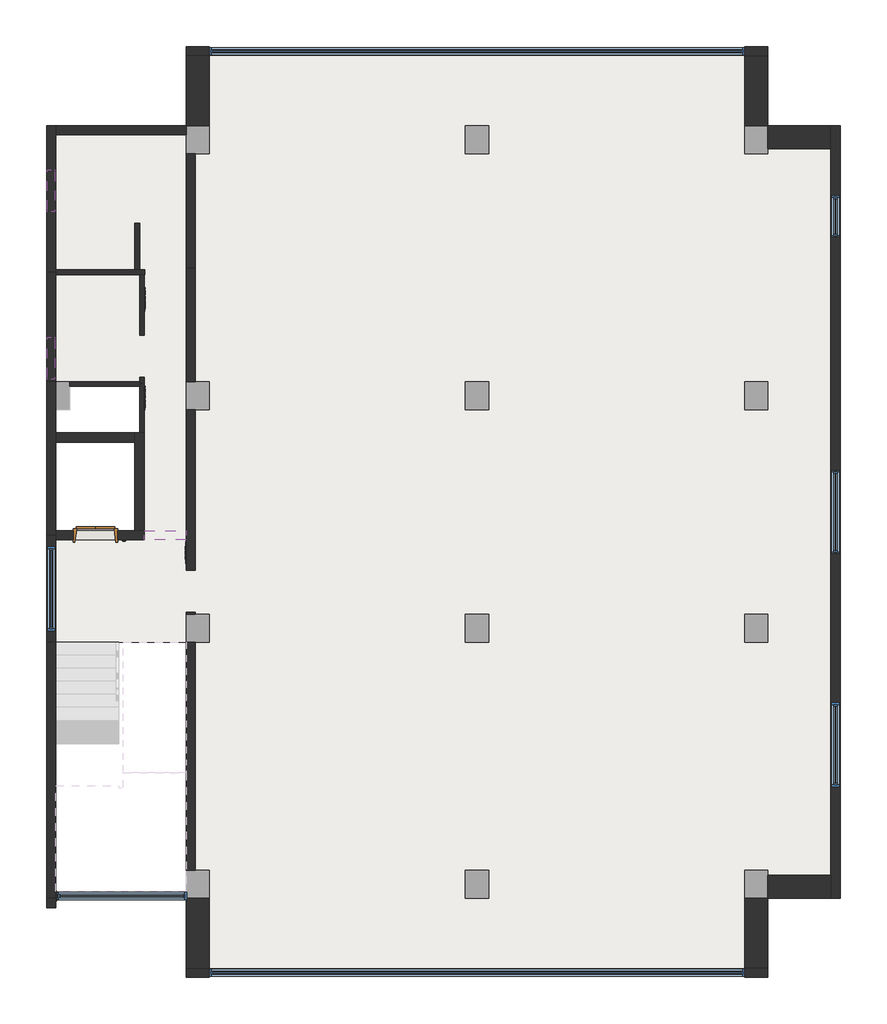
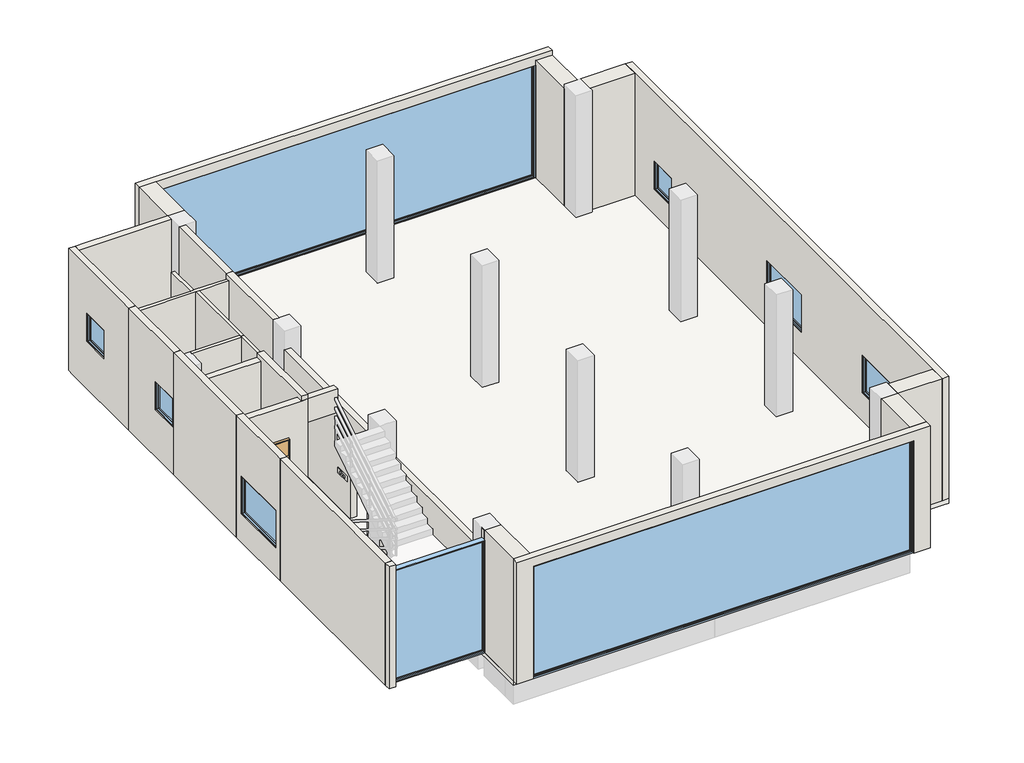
# One storey, part 1 of 3: 33 walls, 9 windows, 1 door, 1 slab.
"""IFC4 building model written with IfcOpenShell, lengths in millimetres."""

from ifc_helpers import new_model, si_unit, frame, origin, place, context, project, spatial, polyline, outline, extrude, faceted_brep, transform, mapped, element, save
from components import door_097e9757, window_16c43cb3, window_f2f41d25, window_07c90ac9, window_8a8d6591, window_3f7671e2

model = new_model("IFC4")

# Units and contexts
model_context = context("Model", 3, world=origin())
ifc_project = project(units=[si_unit("LENGTHUNIT", "METRE", prefix="MILLI")], contexts=[model_context])

# Site, building, storey
site = spatial("IfcSite", under=ifc_project)
building = spatial("IfcBuilding", under=site)
storey = spatial("IfcBuildingStorey", under=building, Name="5층", Elevation=14700.0)

# Door
placement = place(None, origin())
door_shape = door_097e9757(model_context)
element("IfcDoor", 1, ObjectType="XX111-승객용 엘리베이터 (다용도, 800KG) 상판 출입구800 : 엘리베이터 800", at=placement, inside=storey, context=model_context, shape_type="MappedRepresentation", body=[
    mapped(door_shape, transform((925.0, 7500.0, 14800.0), x_axis=(-1.0, 0.0, 0.0), y_axis=(0.0, -1.0, 0.0), z_axis=(0.0, 0.0, 1.0))),
])

# Slab
element("IfcSlab", 2, ObjectType="SL100-구조 바닥 150", at=placement, inside=storey, context=model_context, shape_type="Brep", body=[
    faceted_brep([(-50.0, 5200.0, 14550.0), (-50.0, 7400.0, 14550.0), (1850.0, 7400.0, 14550.0), (1850.0, 7600.0, 14550.0), (1850.0, 9700.0, 14550.0), (1750.0, 9700.0, 14550.0), (1750.0, 10700.0, 14550.0), (250.0, 10700.0, 14550.0), (-50.0, 10700.0, 14550.0), (-50.0, 10800.0, 14550.0), (-50.0, 15700.0, 14550.0), (-50.0, 16100.0, 14550.0), (250.0, 16100.0, 14550.0), (2750.0, 16100.0, 14550.0), (2750.0, 15700.0, 14550.0), (3150.0, 15700.0, 14550.0), (3250.0, 15700.0, 14550.0), (3250.0, 15900.0, 14550.0), (3250.0, 16300.0, 14550.0), (3250.0, 17800.0, 14550.0), (8850.0, 17800.0, 14550.0), (14750.0, 17800.0, 14550.0), (15250.0, 17800.0, 14550.0), (15250.0, 16300.0, 14550.0), (14750.0, 16300.0, 14550.0), (14750.0, 15900.0, 14550.0), (14750.0, 15700.0, 14550.0), (14850.0, 15700.0, 14550.0), (15250.0, 15700.0, 14550.0), (16600.0, 16300.0, 14550.0), (16800.0, 16300.0, 14550.0), (16800.0, -300.0, 14550.0), (16600.0, -300.0, 14550.0), (15250.0, -300.0, 14550.0), (15250.0, 300.0, 14550.0), (14850.0, 300.0, 14550.0), (14750.0, 300.0, 14550.0), (14750.0, 100.0, 14550.0), (14750.0, -300.0, 14550.0), (14750.0, -1400.0, 14550.0), (14750.0, -1800.0, 14550.0), (8850.0, -1800.0, 14550.0), (2750.0, -1800.0, 14550.0), (2750.0, -1400.0, 14550.0), (2750.0, -300.0, 14550.0), (2750.0, 25.0, 14550.0), (2750.0, 5200.0, 14550.0), (3150.0, 5200.0, 14550.0), (3250.0, 5200.0, 14550.0), (3250.0, 5300.0, 14550.0), (3250.0, 5700.0, 14550.0), (3250.0, 5800.0, 14550.0), (3150.0, 5800.0, 14550.0), (2750.0, 5800.0, 14550.0), (2750.0, 10800.0, 14550.0), (2750.0, 10200.0, 14550.0), (3150.0, 10200.0, 14550.0), (3250.0, 10200.0, 14550.0), (3250.0, 10300.0, 14550.0), (3250.0, 10700.0, 14550.0), (3250.0, 10800.0, 14550.0), (3150.0, 10800.0, 14550.0), (8750.0, 10800.0, 14550.0), (8750.0, 10700.0, 14550.0), (8750.0, 10300.0, 14550.0), (8750.0, 10200.0, 14550.0), (8850.0, 10200.0, 14550.0), (9250.0, 10200.0, 14550.0), (9250.0, 10300.0, 14550.0), (9250.0, 10700.0, 14550.0), (9250.0, 10800.0, 14550.0), (8850.0, 10800.0, 14550.0), (14750.0, 10800.0, 14550.0), (14750.0, 10700.0, 14550.0), (14750.0, 10300.0, 14550.0), (14750.0, 10200.0, 14550.0), (14850.0, 10200.0, 14550.0), (15250.0, 10200.0, 14550.0), (15250.0, 10300.0, 14550.0), (15250.0, 10700.0, 14550.0), (15250.0, 10800.0, 14550.0), (14850.0, 10800.0, 14550.0), (14750.0, 5800.0, 14550.0), (14750.0, 5700.0, 14550.0), (14750.0, 5300.0, 14550.0), (14750.0, 5200.0, 14550.0), (14850.0, 5200.0, 14550.0), (15250.0, 5200.0, 14550.0), (15250.0, 5300.0, 14550.0), (15250.0, 5700.0, 14550.0), (15250.0, 5800.0, 14550.0), (14850.0, 5800.0, 14550.0), (-50.0, 7400.0, 14700.0), (-50.0, 5200.0, 14700.0), (2750.0, 5200.0, 14700.0), (2750.0, 5800.0, 14700.0), (3250.0, 5800.0, 14700.0), (3250.0, 5200.0, 14700.0), (2750.0, 300.0, 14700.0), (2750.0, -300.0, 14700.0), (2750.0, -1800.0, 14700.0), (14750.0, -1800.0, 14700.0), (14750.0, -300.0, 14700.0), (14750.0, 300.0, 14700.0), (15250.0, 300.0, 14700.0), (15250.0, -300.0, 14700.0), (16800.0, -300.0, 14700.0), (16800.0, 16300.0, 14700.0), (15250.0, 16300.0, 14700.0), (15250.0, 15700.0, 14700.0), (14750.0, 15700.0, 14700.0), (14750.0, 16300.0, 14700.0), (15250.0, 17800.0, 14700.0), (3250.0, 17800.0, 14700.0), (3250.0, 16300.0, 14700.0), (3250.0, 15700.0, 14700.0), (2750.0, 15700.0, 14700.0), (2750.0, 16100.0, 14700.0), (250.0, 16100.0, 14700.0), (-50.0, 16100.0, 14700.0), (-50.0, 10800.0, 14700.0), (-50.0, 10700.0, 14700.0), (250.0, 10700.0, 14700.0), (1750.0, 10700.0, 14700.0), (1750.0, 9700.0, 14700.0), (1850.0, 9700.0, 14700.0), (1850.0, 7600.0, 14700.0), (1850.0, 7400.0, 14700.0), (14750.0, 10200.0, 14700.0), (14750.0, 10800.0, 14700.0), (15250.0, 10800.0, 14700.0), (15250.0, 10200.0, 14700.0), (14750.0, 5200.0, 14700.0), (14750.0, 5800.0, 14700.0), (15250.0, 5800.0, 14700.0), (15250.0, 5200.0, 14700.0), (8750.0, 10200.0, 14700.0), (8750.0, 10800.0, 14700.0), (9250.0, 10800.0, 14700.0), (9250.0, 10200.0, 14700.0), (2750.0, 10200.0, 14700.0), (2750.0, 10800.0, 14700.0), (3250.0, 10800.0, 14700.0), (3250.0, 10200.0, 14700.0)], [[[0, 1, 2, 3, 4, 5, 6, 7, 8, 9, 10, 11, 12, 13, 14, 15, 16, 17, 18, 19, 20, 21, 22, 23, 24, 25, 26, 27, 28, 23, 29, 30, 31, 32, 33, 34, 35, 36, 37, 38, 39, 40, 41, 42, 43, 44, 45, 46, 47, 48, 49, 50, 51, 52, 53, 46], [54, 55, 56, 57, 58, 59, 60, 61], [62, 63, 64, 65, 66, 67, 68, 69, 70, 71], [72, 73, 74, 75, 76, 77, 78, 79, 80, 81], [82, 83, 84, 85, 86, 87, 88, 89, 90, 91]], [[92, 93, 94, 95, 96, 97, 94, 98, 99, 100, 101, 102, 103, 104, 105, 106, 107, 108, 109, 110, 111, 108, 112, 113, 114, 115, 116, 117, 118, 119, 120, 121, 122, 123, 124, 125, 126, 127], [128, 129, 130, 131], [132, 133, 134, 135], [136, 137, 138, 139], [140, 141, 142, 143]], [[1, 0, 93, 92]], [[13, 12, 11, 119, 118, 117]], [[46, 45, 44, 43, 42, 100, 99, 98, 94]], [[0, 46, 94, 93]], [[112, 22, 21, 20, 19, 113]], [[31, 30, 107, 106]], [[100, 42, 41, 40, 101]], [[33, 32, 31, 106, 105]], [[23, 22, 112, 108]], [[30, 29, 23, 108, 107]], [[2, 1, 92, 127]], [[4, 3, 2, 127, 126, 125]], [[8, 7, 6, 123, 122, 121]], [[11, 10, 9, 8, 121, 120, 119]], [[72, 129, 128, 75, 74, 73]], [[129, 72, 81, 80, 130]], [[130, 80, 79, 78, 77, 131]], [[131, 77, 76, 75, 128]], [[110, 26, 25, 24, 111]], [[111, 24, 23, 108]], [[108, 23, 28, 109]], [[26, 110, 109, 28, 27]], [[82, 133, 132, 85, 84, 83]], [[133, 82, 91, 90, 134]], [[134, 90, 89, 88, 87, 135]], [[135, 87, 86, 85, 132]], [[34, 104, 103, 36, 35]], [[136, 65, 64, 63, 62, 137]], [[137, 62, 71, 70, 138]], [[138, 70, 69, 68, 67, 139]], [[65, 136, 139, 67, 66]], [[116, 14, 13, 117]], [[16, 115, 114, 113, 19, 18, 17]], [[14, 116, 115, 16, 15]], [[54, 141, 140, 55]], [[60, 142, 141, 54, 61]], [[57, 143, 142, 60, 59, 58]], [[143, 57, 56, 55, 140]], [[53, 95, 94, 46]], [[51, 96, 95, 53, 52]], [[48, 97, 96, 51, 50, 49]], [[97, 48, 47, 46, 94]], [[5, 4, 125, 124]], [[6, 5, 124, 123]], [[36, 103, 102, 101, 40, 39, 38, 37]], [[104, 34, 33, 105]]]),
])

# Walls
element("IfcWall", 3, ObjectType="WA100-구조 벽 500", at=placement, inside=storey, context=model_context, shape_type="Brep", body=[
    faceted_brep([(2749.5, -1800.0, 14700.0), (2749.5, -1800.0, 18600.0), (2749.5, -150.0, 18600.0), (2749.5, -150.0, 18450.0), (2749.5, -150.0, 18300.0), (2749.5, -350.0, 18300.0), (2749.5, -350.0, 14700.0), (3249.5, -1800.0, 18600.0), (3249.5, -1800.0, 18450.0), (3249.5, -1800.0, 14700.0), (3249.5, -300.0, 14700.0), (3249.5, -300.0, 18450.0), (3249.5, -300.0, 18600.0), (2764.041029, -350.0, 14700.0), (2764.041029, -300.0, 14700.0), (2750.0, -300.0, 18600.0), (2750.0, -150.0, 18600.0), (2750.0, -300.0, 18300.0), (2750.0, -150.0, 18300.0), (2750.0, -150.0, 18450.0), (2764.041029, -300.0, 18300.0), (2764.041029, -350.0, 18300.0)], [[[0, 1, 2, 3, 4, 5, 6]], [[7, 8, 9, 10, 11, 12]], [[9, 0, 6, 13, 14, 10]], [[1, 0, 9, 8, 7]], [[2, 1, 7, 12, 15, 16]], [[15, 17, 18, 19, 16]], [[17, 15, 12, 11, 10, 14, 20]], [[4, 3, 2, 16, 19, 18]], [[21, 13, 6, 5]], [[13, 21, 20, 14]], [[21, 5, 4, 18, 17, 20]]]),
])
element("IfcWall", 4, ObjectType="WA100-구조 벽 500", at=placement, inside=storey, context=model_context, shape_type="Brep", body=[
    faceted_brep([(14750.0, -1800.0, 14700.0), (14750.0, -1800.0, 18450.0), (14750.0, -1800.0, 18600.0), (14750.0, -300.0, 18600.0), (14750.0, -300.0, 14700.0), (15250.0, -1800.0, 18600.0), (15250.0, -1800.0, 14700.0), (15250.0, -300.0, 14700.0), (15250.0, -300.0, 18600.0)], [[[0, 1, 2, 3, 4]], [[5, 6, 7, 8]], [[6, 0, 4, 7]], [[2, 1, 0, 6, 5]], [[2, 5, 8, 3]], [[4, 3, 8, 7]]]),
])
element("IfcWall", 5, ObjectType="WA100-구조 벽 200", at=placement, inside=storey, context=model_context, shape_type="Brep", body=[
    faceted_brep([(16800.0, -300.0, 14700.0), (16800.0, 16300.0, 14700.0), (16800.0, 16300.0, 18600.0), (16800.0, -300.0, 18600.0), (16800.0, 8900.0, 16800.0), (16800.0, 8900.0, 15600.0), (16800.0, 7100.0, 15600.0), (16800.0, 7100.0, 16800.0), (16800.0, 14800.0, 16400.0), (16800.0, 14800.0, 15500.0), (16800.0, 13900.0, 15500.0), (16800.0, 13900.0, 16400.0), (16800.0, 3900.0, 16800.0), (16800.0, 3900.0, 15600.0), (16800.0, 2100.0, 15600.0), (16800.0, 2100.0, 16800.0), (16600.0, -300.0, 14700.0), (16600.0, -300.0, 18600.0), (16600.0, 200.0, 18600.0), (16600.0, 15800.0, 18600.0), (16600.0, 16300.0, 18600.0), (16600.0, 16300.0, 14700.0), (16600.0, 15800.0, 14700.0), (16600.0, 200.0, 14700.0), (16600.0, 8900.0, 16800.0), (16600.0, 7100.0, 16800.0), (16600.0, 7100.0, 15600.0), (16600.0, 8900.0, 15600.0), (16600.0, 14800.0, 16400.0), (16600.0, 13900.0, 16400.0), (16600.0, 13900.0, 15500.0), (16600.0, 14800.0, 15500.0), (16600.0, 3900.0, 16800.0), (16600.0, 2100.0, 16800.0), (16600.0, 2100.0, 15600.0), (16600.0, 3900.0, 15600.0)], [[[0, 1, 2, 3], [4, 5, 6, 7], [8, 9, 10, 11], [12, 13, 14, 15]], [[16, 17, 18, 19, 20, 21, 22, 23], [24, 25, 26, 27], [28, 29, 30, 31], [32, 33, 34, 35]], [[1, 0, 16, 23, 22, 21]], [[3, 2, 20, 19, 18, 17]], [[0, 3, 17, 16]], [[2, 1, 21, 20]], [[5, 4, 24, 27]], [[6, 5, 27, 26]], [[7, 6, 26, 25]], [[4, 7, 25, 24]], [[9, 8, 28, 31]], [[10, 9, 31, 30]], [[11, 10, 30, 29]], [[8, 11, 29, 28]], [[13, 12, 32, 35]], [[14, 13, 35, 34]], [[15, 14, 34, 33]], [[12, 15, 33, 32]]]),
])
element("IfcWall", 6, ObjectType="WA100-구조 벽 500", at=placement, inside=storey, context=model_context, shape_type="SweptSolid", body=[
    extrude(outline(polyline([(16600.0, -300.0), (15250.0, -300.0), (15250.0, 200.0), (16600.0, 200.0), (16600.0, -300.0)])), frame((0.0, 0.0, 14700.0), z_axis=(0.0, 0.0, 1.0), x_axis=(1.0, 0.0, 0.0)), (0.0, 0.0, 1.0), 3900.0),
])
element("IfcWall", 7, ObjectType="WA100-구조 벽 500", at=placement, inside=storey, context=model_context, shape_type="SweptSolid", body=[
    extrude(outline(polyline([(2750.0, 17800.0), (3250.0, 17800.0), (3250.0, 16300.0), (2750.0, 16300.0), (2750.0, 17800.0)])), frame((0.0, 0.0, 14700.0), z_axis=(0.0, 0.0, 1.0), x_axis=(1.0, 0.0, 0.0)), (0.0, 0.0, 1.0), 3900.0),
])
element("IfcWall", 8, ObjectType="WA100-구조 벽 500", at=placement, inside=storey, context=model_context, shape_type="SweptSolid", body=[
    extrude(outline(polyline([(14750.0, 17800.0), (15250.0, 17800.0), (15250.0, 16300.0), (14750.0, 16300.0), (14750.0, 17800.0)])), frame((0.0, 0.0, 14700.0), z_axis=(0.0, 0.0, 1.0), x_axis=(1.0, 0.0, 0.0)), (0.0, 0.0, 1.0), 3750.0),
])
element("IfcWall", 9, ObjectType="WA100-구조 벽 500", at=placement, inside=storey, context=model_context, shape_type="SweptSolid", body=[
    extrude(outline(polyline([(16600.0, 15800.0), (15250.0, 15800.0), (15250.0, 16300.0), (16600.0, 16300.0), (16600.0, 15800.0)])), frame((0.0, 0.0, 14700.0), z_axis=(0.0, 0.0, 1.0), x_axis=(1.0, 0.0, 0.0)), (0.0, 0.0, 1.0), 3900.0),
])
element("IfcWall", 10, ObjectType="WA100-구조 벽 200", at=placement, inside=storey, context=model_context, shape_type="SweptSolid", body=[
    extrude(outline(polyline([(-50.0, 5200.0), (-50.0, -300.0), (-250.0, -300.0), (-250.0, 5200.0), (-50.0, 5200.0)])), frame((0.0, 0.0, 14700.0), z_axis=(0.0, 0.0, 1.0), x_axis=(1.0, 0.0, 0.0)), (0.0, 0.0, 1.0), 3900.0),
])
element("IfcWall", 11, ObjectType="WA100-구조 벽 200", at=placement, inside=storey, context=model_context, shape_type="Brep", body=[
    faceted_brep([(-50.0, 7400.0, 14700.0), (1850.0, 7400.0, 14700.0), (1850.0, 7400.0, 17700.0), (1850.0, 7400.0, 18450.0), (1650.0, 7400.0, 18450.0), (-50.0, 7400.0, 18450.0), (1275.0, 7400.0, 17400.0), (1275.0, 7400.0, 14800.0), (325.0, 7400.0, 14800.0), (325.0, 7400.0, 17400.0), (1850.0, 7600.0, 14700.0), (1650.0, 7600.0, 14700.0), (-50.0, 7600.0, 14700.0), (-50.0, 7600.0, 18450.0), (1650.0, 7600.0, 18450.0), (1850.0, 7600.0, 18450.0), (1850.0, 7600.0, 17700.0), (1275.0, 7600.0, 14800.0), (1275.0, 7600.0, 17400.0), (325.0, 7600.0, 17400.0), (325.0, 7600.0, 14800.0), (-50.0, 7500.0, 14700.0)], [[[0, 1, 2, 3, 4, 5], [6, 7, 8, 9]], [[10, 11, 12, 13, 14, 15, 16], [17, 18, 19, 20]], [[1, 0, 21, 12, 11, 10]], [[5, 4, 3, 15, 14, 13]], [[6, 18, 17, 7]], [[7, 17, 20, 8]], [[8, 20, 19, 9]], [[18, 6, 9, 19]], [[1, 10, 16, 15, 3, 2]], [[0, 5, 13, 12, 21]]]),
])
element("IfcWall", 12, ObjectType="WA700-수장 벽 100", at=placement, inside=storey, context=model_context, shape_type="Brep", body=[
    faceted_brep([(250.0, 10700.0, 14700.0), (1750.0, 10700.0, 14700.0), (1750.0, 10700.0, 18450.0), (250.0, 10700.0, 18450.0), (250.0, 10800.0, 14700.0), (250.0, 10800.0, 18450.0), (1750.0, 10800.0, 18450.0), (1750.0, 10800.0, 14700.0), (1750.0, 10750.0, 14700.0), (1750.0, 10750.0, 18450.0)], [[[0, 1, 2, 3]], [[4, 5, 6, 7]], [[1, 0, 4, 7, 8]], [[0, 3, 5, 4]], [[3, 2, 9, 6, 5]], [[2, 1, 8, 7, 6, 9]]]),
])
element("IfcWall", 13, ObjectType="WA100-구조 벽 200", at=placement, inside=storey, context=model_context, shape_type="Brep", body=[
    faceted_brep([(1850.0, 7600.0, 18450.0), (1850.0, 7600.0, 14700.0), (1850.0, 9700.0, 14700.0), (1850.0, 9700.0, 18600.0), (1850.0, 7400.0, 18600.0), (1850.0, 7400.0, 18450.0), (1650.0, 7600.0, 14700.0), (1650.0, 7600.0, 18450.0), (1650.0, 7400.0, 18450.0), (1650.0, 7400.0, 18600.0), (1650.0, 9500.0, 18600.0), (1650.0, 9700.0, 18600.0), (1650.0, 9700.0, 14700.0), (1650.0, 9500.0, 14700.0)], [[[0, 1, 2, 3, 4, 5]], [[6, 7, 8, 9, 10, 11, 12, 13]], [[2, 1, 6, 13, 12]], [[4, 3, 11, 10, 9]], [[2, 12, 11, 3]], [[5, 8, 7, 0]], [[0, 7, 6, 1]], [[5, 4, 9, 8]]]),
])
element("IfcWall", 14, ObjectType="WA100-구조 벽 200", at=placement, inside=storey, context=model_context, shape_type="SweptSolid", body=[
    extrude(outline(polyline([(1650.0, 9500.0), (-50.0, 9500.0), (-50.0, 9700.0), (1650.0, 9700.0), (1650.0, 9500.0)])), frame((0.0, 0.0, 14700.0), z_axis=(0.0, 0.0, 1.0), x_axis=(1.0, 0.0, 0.0)), (0.0, 0.0, 1.0), 3750.0),
])
element("IfcWall", 15, ObjectType="WA700-수장 벽 100", at=placement, inside=storey, context=model_context, shape_type="Brep", body=[
    faceted_brep([(1750.0, 10750.0, 14700.0), (1750.0, 10750.0, 18450.0), (1750.0, 10800.0, 18450.0), (1750.0, 13100.0, 18450.0), (1750.0, 13100.0, 14700.0), (1750.0, 11795.0, 14700.0), (1750.0, 11795.0, 16500.0), (1750.0, 10895.0, 16500.0), (1750.0, 10895.0, 14700.0), (1750.0, 10800.0, 14700.0), (1850.0, 10750.0, 18450.0), (1850.0, 10750.0, 14700.0), (1850.0, 10895.0, 14700.0), (1850.0, 10895.0, 16500.0), (1850.0, 11795.0, 16500.0), (1850.0, 11795.0, 14700.0), (1850.0, 13100.0, 14700.0), (1850.0, 13100.0, 18450.0)], [[[0, 1, 2, 3, 4, 5, 6, 7, 8, 9]], [[10, 11, 12, 13, 14, 15, 16, 17]], [[11, 0, 9, 8, 12]], [[4, 16, 15, 5]], [[1, 0, 11, 10]], [[4, 3, 17, 16]], [[3, 2, 1, 10, 17]], [[7, 13, 12, 8]], [[13, 7, 6, 14]], [[14, 6, 5, 15]]]),
])
element("IfcWall", 16, ObjectType="WA700-수장 벽 100", at=placement, inside=storey, context=model_context, shape_type="Brep", body=[
    faceted_brep([(2750.0, 13100.0, 18450.0), (1850.0, 13100.0, 18450.0), (1750.0, 13100.0, 18450.0), (-50.0, 13100.0, 18450.0), (-50.0, 13100.0, 14700.0), (1750.0, 13100.0, 14700.0), (1850.0, 13100.0, 14700.0), (1855.0, 13100.0, 14700.0), (1855.0, 13100.0, 16500.0), (2750.0, 13100.0, 16500.0), (-50.0, 13200.0, 18450.0), (1650.0, 13200.0, 18450.0), (1750.0, 13200.0, 18450.0), (2750.0, 13200.0, 18450.0), (2750.0, 13200.0, 16500.0), (1855.0, 13200.0, 16500.0), (1855.0, 13200.0, 14700.0), (1750.0, 13200.0, 14700.0), (1650.0, 13200.0, 14700.0), (-50.0, 13200.0, 14700.0)], [[[0, 1, 2, 3, 4, 5, 6, 7, 8, 9]], [[10, 11, 12, 13, 14, 15, 16, 17, 18, 19]], [[4, 19, 18, 17, 16, 7, 6, 5]], [[13, 0, 9, 14]], [[3, 2, 1, 0, 13, 12, 11, 10]], [[8, 15, 14, 9]], [[15, 8, 7, 16]], [[4, 3, 10, 19]]]),
])
element("IfcWall", 17, ObjectType="WA700-수장 벽 100", at=placement, inside=storey, context=model_context, shape_type="SweptSolid", body=[
    extrude(outline(polyline([(1750.0, 14200.0), (1750.0, 13200.0), (1650.0, 13200.0), (1650.0, 14200.0), (1750.0, 14200.0)])), frame((0.0, 0.0, 14700.0), z_axis=(0.0, 0.0, 1.0), x_axis=(1.0, 0.0, 0.0)), (0.0, 0.0, 1.0), 3750.0),
])
element("IfcWall", 18, ObjectType="WA100-구조 벽 200", at=placement, inside=storey, context=model_context, shape_type="SweptSolid", body=[
    extrude(outline(polyline([(10200.0, 18000.0), (10200.0, 14700.0), (6745.0, 14700.0), (6745.0, 16500.0), (5845.0, 16500.0), (5845.0, 14700.0), (5800.0, 14700.0), (5800.0, 18000.0), (10200.0, 18000.0)])), frame((2750.0, 0.0, 0.0), z_axis=(1.0, 0.0, 0.0), x_axis=(0.0, 1.0, 0.0)), (0.0, 0.0, 1.0), 200.0),
])
element("IfcWall", 19, ObjectType="WA100-구조 벽 200", at=placement, inside=storey, context=model_context, shape_type="SweptSolid", body=[
    extrude(outline(polyline([(2950.0, 5200.0), (2950.0, 300.0), (2750.0, 300.0), (2750.0, 5200.0), (2950.0, 5200.0)])), frame((0.0, 0.0, 14700.0), z_axis=(0.0, 0.0, 1.0), x_axis=(1.0, 0.0, 0.0)), (0.0, 0.0, 1.0), 3150.0),
])
element("IfcWall", 20, ObjectType="WA100-구조 벽 200", at=placement, inside=storey, context=model_context, shape_type="SweptSolid", body=[
    extrude(outline(polyline([(2750.0, 13240.0), (2750.0, 15700.0), (2950.0, 15700.0), (2950.0, 13240.0), (2750.0, 13240.0)])), frame((0.0, 0.0, 14700.0), z_axis=(0.0, 0.0, 1.0), x_axis=(1.0, 0.0, 0.0)), (0.0, 0.0, 1.0), 3900.0),
])
element("IfcWall", 21, ObjectType="WA100-구조 벽 200", at=placement, inside=storey, context=model_context, shape_type="Brep", body=[
    faceted_brep([(-50.0, 16100.0, 14700.0), (250.0, 16100.0, 14700.0), (2750.0, 16100.0, 14700.0), (2750.0, 16100.0, 18450.0), (2750.0, 16100.0, 18600.0), (-50.0, 16100.0, 18600.0), (-50.0, 16100.0, 18450.0), (2750.0, 16300.0, 14700.0), (250.0, 16300.0, 14700.0), (-50.0, 16300.0, 14700.0), (-50.0, 16300.0, 18600.0), (250.0, 16300.0, 18600.0), (2750.0, 16300.0, 18600.0), (2750.0, 16300.0, 18450.0)], [[[0, 1, 2, 3, 4, 5, 6]], [[7, 8, 9, 10, 11, 12, 13]], [[2, 1, 0, 9, 8, 7]], [[5, 4, 12, 11, 10]], [[2, 7, 13, 12, 4, 3]], [[5, 10, 9, 0, 6]]]),
])
element("IfcWall", 22, ObjectType="WA100-구조 벽 200", at=placement, inside=storey, context=model_context, shape_type="SweptSolid", body=[
    extrude(outline(polyline([(1850.0, 7600.0), (2750.0, 7600.0), (2750.0, 7400.0), (1850.0, 7400.0), (1850.0, 7600.0)])), frame((0.0, 0.0, 17700.0), z_axis=(0.0, 0.0, 1.0), x_axis=(1.0, 0.0, 0.0)), (0.0, 0.0, 1.0), 750.0),
])
element("IfcWall", 23, ObjectType="WA100-구조 벽 200", at=placement, inside=storey, context=model_context, shape_type="Brep", body=[
    faceted_brep([(-50.0, -300.0, 14700.0), (-250.0, -300.0, 14700.0), (-250.0, -300.0, 18600.0), (-50.0, -300.0, 18600.0), (-50.0, -500.0, 14700.0), (-50.0, -500.0, 18600.0), (-250.0, -500.0, 18600.0), (-250.0, -500.0, 14700.0), (-50.0, -350.0, 14700.0)], [[[0, 1, 2, 3]], [[4, 5, 6, 7]], [[1, 0, 8, 4, 7]], [[2, 1, 7, 6]], [[3, 2, 6, 5]], [[0, 3, 5, 4, 8]]]),
])
element("IfcWall", 24, ObjectType="WA100-구조 벽 200", at=placement, inside=storey, context=model_context, shape_type="SweptSolid", body=[
    extrude(outline(polyline([(18300.0, 14750.0), (14700.0, 14750.0), (14700.0, 15250.0), (18600.0, 15250.0), (18600.0, 2749.5), (14700.0, 2749.5), (14700.0, 3250.0), (18300.0, 3250.0), (18300.0, 14750.0)])), frame((0.0, -2000.0, 0.0), z_axis=(0.0, 1.0, 0.0), x_axis=(0.0, 0.0, 1.0)), (0.0, 0.0, 1.0), 200.0),
])
element("IfcWall", 25, ObjectType="WA100-구조 벽 200", at=placement, inside=storey, context=model_context, shape_type="SweptSolid", body=[
    extrude(outline(polyline([(14700.0, 2750.0), (14700.0, 3250.0), (18300.0, 3250.0), (18300.0, 14750.0), (14700.0, 14750.0), (14700.0, 15250.0), (18600.0, 15250.0), (18600.0, 2750.0), (14700.0, 2750.0)])), frame((0.0, 17800.0, 0.0), z_axis=(0.0, 1.0, 0.0), x_axis=(0.0, 0.0, 1.0)), (0.0, 0.0, 1.0), 200.0),
])
element("IfcWall", 26, ObjectType="A-두겁석-T10", at=placement, inside=storey, context=model_context, shape_type="SweptSolid", body=[
    extrude(outline(polyline([(1860.0, 10662.7770914), (1860.0, 10187.7770914), (1850.0, 10187.7770914), (1850.0, 10662.7770914), (1860.0, 10662.7770914)])), frame((0.0, 0.0, 15800.0), z_axis=(0.0, 0.0, 1.0), x_axis=(1.0, 0.0, 0.0)), (0.0, 0.0, 1.0), 170.0),
])
element("IfcWall", 27, ObjectType="A-두겁석-T10", at=placement, inside=storey, context=model_context, shape_type="SweptSolid", body=[
    extrude(outline(polyline([(1860.0, 12782.7770914), (1860.0, 12307.7770914), (1850.0, 12307.7770914), (1850.0, 12782.7770914), (1860.0, 12782.7770914)])), frame((0.0, 0.0, 15800.0), z_axis=(0.0, 0.0, 1.0), x_axis=(1.0, 0.0, 0.0)), (0.0, 0.0, 1.0), 170.0),
])
element("IfcWall", 28, ObjectType="A-두겁석-T10", at=placement, inside=storey, context=model_context, shape_type="SweptSolid", body=[
    extrude(outline(polyline([(2750.0, 7361.0810174), (2750.0, 6886.0810174), (2740.0, 6886.0810174), (2740.0, 7361.0810174), (2750.0, 7361.0810174)])), frame((0.0, 0.0, 15800.0), z_axis=(0.0, 0.0, 1.0), x_axis=(1.0, 0.0, 0.0)), (0.0, 0.0, 1.0), 170.0),
])
element("IfcWall", 29, ObjectType="WA100-구조 벽 200", at=placement, inside=storey, context=model_context, shape_type="Brep", body=[
    faceted_brep([(-50.0, -350.0, 14700.0), (-35.958971, -350.0, 14700.0), (-35.958971, -350.0, 18300.0), (-50.0, -350.0, 18300.0), (-35.958971, -150.0, 14700.0), (-50.0, -150.0, 14700.0), (-50.0, -150.0, 18300.0), (-35.958971, -150.0, 18300.0), (-50.0, -300.0, 14700.0)], [[[0, 1, 2, 3]], [[4, 5, 6, 7]], [[0, 8, 5, 4, 1]], [[5, 8, 0, 3, 6]], [[2, 1, 4, 7]], [[3, 2, 7, 6]]]),
])
element("IfcWall", 30, ObjectType="WA100-구조 벽 200", at=placement, inside=storey, context=model_context, shape_type="Brep", body=[
    faceted_brep([(-50.0, 7500.0, 18600.0), (-50.0, 7500.0, 14700.0), (-50.0, 7600.0, 14700.0), (-50.0, 9500.0, 14700.0), (-50.0, 9700.0, 14700.0), (-50.0, 10200.0, 14700.0), (-50.0, 10800.0, 14700.0), (-50.0, 10800.0, 18450.0), (-50.0, 10800.0, 18600.0), (-250.0, 7500.0, 14700.0), (-250.0, 7500.0, 18600.0), (-250.0, 10800.0, 18600.0), (-250.0, 10800.0, 14700.0)], [[[0, 1, 2, 3, 4, 5, 6, 7, 8]], [[9, 10, 11, 12]], [[6, 5, 4, 3, 2, 1, 9, 12]], [[8, 7, 6, 12, 11]], [[0, 8, 11, 10]], [[0, 10, 9, 1]]]),
])
element("IfcWall", 31, ObjectType="WA700-수장 벽 100", at=placement, inside=storey, context=model_context, shape_type="Brep", body=[
    faceted_brep([(1750.0, 10750.0, 14700.0), (1750.0, 10700.0, 14700.0), (1750.0, 9700.0, 14700.0), (1750.0, 9700.0, 18450.0), (1750.0, 10700.0, 18450.0), (1750.0, 10750.0, 18450.0), (1850.0, 10750.0, 14700.0), (1850.0, 10750.0, 18450.0), (1850.0, 9700.0, 18450.0), (1850.0, 9700.0, 14700.0)], [[[0, 1, 2, 3, 4, 5]], [[6, 7, 8, 9]], [[2, 1, 0, 6, 9]], [[0, 5, 7, 6]], [[3, 2, 9, 8]], [[5, 4, 3, 8, 7]]]),
])
element("IfcWall", 32, ObjectType="WA100-구조 벽 200", at=placement, inside=storey, context=model_context, shape_type="Brep", body=[
    faceted_brep([(2750.0, 13240.0, 18600.0), (2750.0, 13240.0, 14700.0), (2750.0, 13200.0, 14700.0), (2750.0, 13200.0, 16500.0), (2750.0, 13100.0, 16500.0), (2750.0, 13100.0, 14700.0), (2750.0, 10800.0, 14700.0), (2750.0, 10800.0, 18600.0), (2950.0, 13240.0, 14700.0), (2950.0, 13240.0, 18600.0), (2950.0, 10800.0, 18600.0), (2950.0, 10800.0, 14700.0), (2755.0, 13100.0, 14700.0), (2755.0, 13200.0, 14700.0), (2755.0, 13100.0, 16500.0), (2755.0, 13200.0, 16500.0)], [[[0, 1, 2, 3, 4, 5, 6, 7]], [[8, 9, 10, 11]], [[1, 8, 11, 6, 5, 12, 13, 2]], [[9, 0, 7, 10]], [[1, 0, 9, 8]], [[14, 12, 5, 4]], [[13, 15, 3, 2]], [[12, 14, 15, 13]], [[15, 14, 4, 3]], [[7, 6, 11, 10]]]),
])
element("IfcWall", 33, ObjectType="WA100-구조 벽 200", at=placement, inside=storey, context=model_context, shape_type="Brep", body=[
    faceted_brep([(-50.0, 5200.0, 14700.0), (-50.0, 7400.0, 14700.0), (-50.0, 7500.0, 14700.0), (-50.0, 7500.0, 18600.0), (-50.0, 5200.0, 18600.0), (-50.0, 7250.0, 16800.0), (-50.0, 7250.0, 15600.0), (-50.0, 5450.0, 15600.0), (-50.0, 5450.0, 16800.0), (-250.0, 5200.0, 14700.0), (-250.0, 5200.0, 18600.0), (-250.0, 7500.0, 18600.0), (-250.0, 7500.0, 14700.0), (-250.0, 7400.0, 14700.0), (-250.0, 7250.0, 16800.0), (-250.0, 5450.0, 16800.0), (-250.0, 5450.0, 15600.0), (-250.0, 7250.0, 15600.0)], [[[0, 1, 2, 3, 4], [5, 6, 7, 8]], [[9, 10, 11, 12, 13], [14, 15, 16, 17]], [[2, 1, 0, 9, 13, 12]], [[4, 3, 11, 10]], [[0, 4, 10, 9]], [[2, 12, 11, 3]], [[5, 8, 15, 14]], [[8, 7, 16, 15]], [[7, 6, 17, 16]], [[6, 5, 14, 17]]]),
])
element("IfcWall", 34, ObjectType="WA100-구조 벽 200", at=placement, inside=storey, context=model_context, shape_type="SweptSolid", body=[
    extrude(outline(polyline([(13150.0, 18600.0), (13150.0, 14700.0), (10800.0, 14700.0), (10800.0, 18600.0), (13150.0, 18600.0)]), holes=[polyline([(11750.0, 17100.0), (10850.0, 17100.0), (10850.0, 16200.0), (11750.0, 16200.0), (11750.0, 17100.0)])]), frame((-250.0, 0.0, 0.0), z_axis=(1.0, 0.0, 0.0), x_axis=(0.0, 1.0, 0.0)), (0.0, 0.0, 1.0), 200.0),
])
element("IfcWall", 35, ObjectType="WA100-구조 벽 200", at=placement, inside=storey, context=model_context, shape_type="Brep", body=[
    faceted_brep([(-50.0, 13150.0, 18600.0), (-50.0, 13150.0, 14700.0), (-50.0, 16100.0, 14700.0), (-50.0, 16300.0, 14700.0), (-50.0, 16300.0, 18600.0), (-50.0, 16100.0, 18600.0), (-50.0, 15350.0, 17100.0), (-50.0, 15350.0, 16200.0), (-50.0, 14450.0, 16200.0), (-50.0, 14450.0, 17100.0), (-250.0, 13150.0, 14700.0), (-250.0, 13150.0, 18600.0), (-250.0, 15700.0, 18600.0), (-250.0, 16300.0, 18600.0), (-250.0, 16300.0, 14700.0), (-250.0, 16100.0, 14700.0), (-250.0, 15350.0, 17100.0), (-250.0, 14450.0, 17100.0), (-250.0, 14450.0, 16200.0), (-250.0, 15350.0, 16200.0)], [[[0, 1, 2, 3, 4, 5], [6, 7, 8, 9]], [[10, 11, 12, 13, 14, 15], [16, 17, 18, 19]], [[3, 2, 1, 10, 15, 14]], [[0, 5, 4, 13, 12, 11]], [[4, 3, 14, 13]], [[6, 9, 17, 16]], [[9, 8, 18, 17]], [[8, 7, 19, 18]], [[7, 6, 16, 19]], [[0, 11, 10, 1]]]),
])

# Windows
window_shape = window_16c43cb3(model_context)
element("IfcWindow", 36, ObjectType="WD000-창 : WD000-창 900x900", at=placement, inside=storey, context=model_context, shape_type="MappedRepresentation", body=[
    mapped(window_shape, transform((-151.3569777, 11300.0, 15400.0), x_axis=(0.0, -1.0, 0.0), y_axis=(1.0, 0.0, 0.0), z_axis=(0.0, 0.0, 1.0))),
])
element("IfcWindow", 37, ObjectType="WD000-창 : WD000-창 900x900", at=placement, inside=storey, context=model_context, shape_type="MappedRepresentation", body=[
    mapped(window_shape, transform((16701.3569777, 14350.0, 14700.0), x_axis=(0.0, 1.0, 0.0), y_axis=(-1.0, 0.0, 0.0), z_axis=(0.0, 0.0, 1.0))),
])
window_2_shape = window_f2f41d25(model_context)
element("IfcWindow", 38, ObjectType="WD000-창 : WD000-창 900x900", at=placement, inside=storey, context=model_context, shape_type="MappedRepresentation", body=[
    mapped(window_2_shape, transform((-151.3569777, 14900.0, 15400.0), x_axis=(0.0, 1.0, 0.0), y_axis=(-1.0, 0.0, 0.0), z_axis=(0.0, 0.0, 1.0))),
])
window_3_shape = window_07c90ac9(model_context)
element("IfcWindow", 39, ObjectType="WD000-창 : WD000-창 1800x1200", at=placement, inside=storey, context=model_context, shape_type="MappedRepresentation", body=[
    mapped(window_3_shape, transform((-148.6430223, 6350.0, 14800.0), x_axis=(0.0, 1.0, 0.0), y_axis=(-1.0, 0.0, 0.0), z_axis=(0.0, 0.0, 1.0))),
])
element("IfcWindow", 40, ObjectType="WD000-창 : WD000-창 1800x1200", at=placement, inside=storey, context=model_context, shape_type="MappedRepresentation", body=[
    mapped(window_3_shape, transform((16701.3569777, 8000.0, 14800.0), x_axis=(0.0, 1.0, 0.0), y_axis=(-1.0, 0.0, 0.0), z_axis=(0.0, 0.0, 1.0))),
])
element("IfcWindow", 41, ObjectType="WD000-창 : WD000-창 1800x1200", at=placement, inside=storey, context=model_context, shape_type="MappedRepresentation", body=[
    mapped(window_3_shape, transform((16701.3569777, 3000.0, 14800.0), x_axis=(0.0, 1.0, 0.0), y_axis=(-1.0, 0.0, 0.0), z_axis=(0.0, 0.0, 1.0))),
])
window_4_shape = window_8a8d6591(model_context)
element("IfcWindow", 42, ObjectType="WD000-창 : WD000-창 11500x3600", at=placement, inside=storey, context=model_context, shape_type="MappedRepresentation", body=[
    mapped(window_4_shape, transform((9000.0, -1898.6430223, 13900.0), x_axis=(-1.0, 0.0, 0.0), y_axis=(0.0, -1.0, 0.0), z_axis=(0.0, 0.0, 1.0))),
])
element("IfcWindow", 43, ObjectType="WD000-창 : WD000-창 11500x3600", at=placement, inside=storey, context=model_context, shape_type="MappedRepresentation", body=[
    mapped(window_4_shape, transform((9000.0, 17898.6430223, 13900.0), x_axis=(1.0, 0.0, 0.0), y_axis=(0.0, 1.0, 0.0), z_axis=(0.0, 0.0, 1.0))),
])
window_5_shape = window_3f7671e2(model_context)
element("IfcWindow", 44, ObjectType="WD000-창 : WD000-창 2800x3600", at=placement, inside=storey, context=model_context, shape_type="MappedRepresentation", body=[
    mapped(window_5_shape, transform((1364.041029, -248.6430223, 13900.0), x_axis=(-1.0, 0.0, 0.0), y_axis=(0.0, -1.0, 0.0), z_axis=(0.0, 0.0, 1.0))),
])

save(model, "model.ifc")
